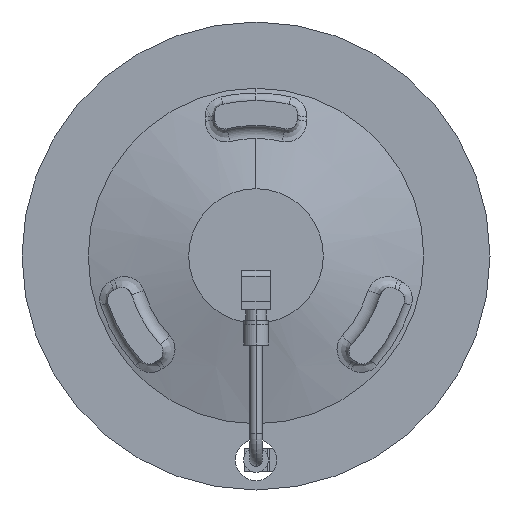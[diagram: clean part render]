
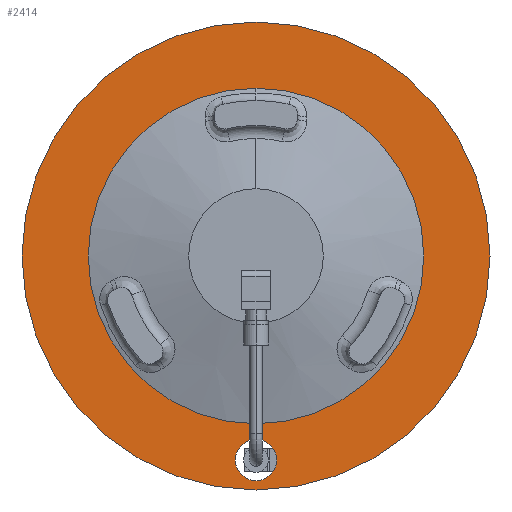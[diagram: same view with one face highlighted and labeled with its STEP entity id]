
A CAD part, front view. The second image highlights one B-rep face of the part: STEP entity #2414.
In plain terms, the highlighted planar face has unit normal (0, -1, 0).
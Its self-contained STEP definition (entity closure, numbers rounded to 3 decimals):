
#477 = ORIENTED_EDGE ( 'NONE', *, *, #3810, .F. ) ;
#1189 = AXIS2_PLACEMENT_3D ( 'NONE', #7078, #6818, #12101 ) ;
#1808 = EDGE_CURVE ( 'NONE', #16354, #14023, #17123, .T. ) ;
#2016 = DIRECTION ( 'NONE',  ( 0., 0., -1. ) ) ;
#2414 = ADVANCED_FACE ( 'NONE', ( #3329, #15010, #8617 ), #10317, .T. ) ;
#2456 = AXIS2_PLACEMENT_3D ( 'NONE', #16325, #5730, #2016 ) ;
#2617 = AXIS2_PLACEMENT_3D ( 'NONE', #14321, #10427, #3753 ) ;
#3282 = DIRECTION ( 'NONE',  ( 0., 1., 0. ) ) ;
#3329 = FACE_BOUND ( 'NONE', #13343, .T. ) ;
#3448 = CIRCLE ( 'NONE', #2617, 10. ) ;
#3753 = DIRECTION ( 'NONE',  ( 0., 0., -1. ) ) ;
#3803 = DIRECTION ( 'NONE',  ( 0., 0., 1. ) ) ;
#3810 = EDGE_CURVE ( 'NONE', #13067, #11407, #6550, .T. ) ;
#4326 = CARTESIAN_POINT ( 'NONE',  ( 0., -151.8, -113. ) ) ;
#4875 = CARTESIAN_POINT ( 'NONE',  ( 0., -151.8, -81.017 ) ) ;
#5112 = CARTESIAN_POINT ( 'NONE',  ( 0., -151.8, 0. ) ) ;
#5527 = DIRECTION ( 'NONE',  ( 0., 0., -1. ) ) ;
#5730 = DIRECTION ( 'NONE',  ( 0., -1., 0. ) ) ;
#6121 = CARTESIAN_POINT ( 'NONE',  ( 0., -151.8, 0. ) ) ;
#6348 = CARTESIAN_POINT ( 'NONE',  ( 0., -151.8, -88.5 ) ) ;
#6550 = CIRCLE ( 'NONE', #17120, 113. ) ;
#6564 = VERTEX_POINT ( 'NONE', #6348 ) ;
#6818 = DIRECTION ( 'NONE',  ( 0., 1., 0. ) ) ;
#6911 = CARTESIAN_POINT ( 'NONE',  ( 0., -151.8, 81.017 ) ) ;
#6975 = EDGE_CURVE ( 'NONE', #13938, #6564, #7525, .T. ) ;
#7078 = CARTESIAN_POINT ( 'NONE',  ( 0., -151.8, 0. ) ) ;
#7184 = ORIENTED_EDGE ( 'NONE', *, *, #16980, .F. ) ;
#7525 = CIRCLE ( 'NONE', #14708, 10. ) ;
#7546 = DIRECTION ( 'NONE',  ( 0., 0., 1. ) ) ;
#7981 = AXIS2_PLACEMENT_3D ( 'NONE', #9020, #14295, #3803 ) ;
#8327 = EDGE_CURVE ( 'NONE', #11407, #13067, #11932, .T. ) ;
#8520 = ORIENTED_EDGE ( 'NONE', *, *, #12133, .T. ) ;
#8572 = DIRECTION ( 'NONE',  ( 0., 0., 1. ) ) ;
#8617 = FACE_OUTER_BOUND ( 'NONE', #15459, .T. ) ;
#9020 = CARTESIAN_POINT ( 'NONE',  ( 0., -151.8, 0. ) ) ;
#9190 = DIRECTION ( 'NONE',  ( 0., 1., 0. ) ) ;
#9492 = CARTESIAN_POINT ( 'NONE',  ( 0., -151.8, -108.5 ) ) ;
#10317 = PLANE ( 'NONE',  #2456 ) ;
#10427 = DIRECTION ( 'NONE',  ( 0., -1., 0. ) ) ;
#10648 = ORIENTED_EDGE ( 'NONE', *, *, #8327, .F. ) ;
#10786 = CARTESIAN_POINT ( 'NONE',  ( 0., -151.8, 113. ) ) ;
#11407 = VERTEX_POINT ( 'NONE', #10786 ) ;
#11932 = CIRCLE ( 'NONE', #15818, 113. ) ;
#12101 = DIRECTION ( 'NONE',  ( 0., 0., 1. ) ) ;
#12122 = DIRECTION ( 'NONE',  ( 0., -1., 0. ) ) ;
#12133 = EDGE_CURVE ( 'NONE', #14023, #16354, #13637, .T. ) ;
#12382 = CARTESIAN_POINT ( 'NONE',  ( 0., -151.8, -98.5 ) ) ;
#13019 = EDGE_LOOP ( 'NONE', ( #13855, #8520 ) ) ;
#13067 = VERTEX_POINT ( 'NONE', #4326 ) ;
#13343 = EDGE_LOOP ( 'NONE', ( #7184, #16724 ) ) ;
#13637 = CIRCLE ( 'NONE', #1189, 81.017 ) ;
#13855 = ORIENTED_EDGE ( 'NONE', *, *, #1808, .T. ) ;
#13938 = VERTEX_POINT ( 'NONE', #9492 ) ;
#14023 = VERTEX_POINT ( 'NONE', #4875 ) ;
#14295 = DIRECTION ( 'NONE',  ( 0., 1., 0. ) ) ;
#14321 = CARTESIAN_POINT ( 'NONE',  ( 0., -151.8, -98.5 ) ) ;
#14708 = AXIS2_PLACEMENT_3D ( 'NONE', #12382, #12122, #5527 ) ;
#15010 = FACE_BOUND ( 'NONE', #13019, .T. ) ;
#15459 = EDGE_LOOP ( 'NONE', ( #10648, #477 ) ) ;
#15818 = AXIS2_PLACEMENT_3D ( 'NONE', #6121, #3282, #8572 ) ;
#16325 = CARTESIAN_POINT ( 'NONE',  ( -113., -151.8, 0. ) ) ;
#16354 = VERTEX_POINT ( 'NONE', #6911 ) ;
#16724 = ORIENTED_EDGE ( 'NONE', *, *, #6975, .F. ) ;
#16980 = EDGE_CURVE ( 'NONE', #6564, #13938, #3448, .T. ) ;
#17120 = AXIS2_PLACEMENT_3D ( 'NONE', #5112, #9190, #7546 ) ;
#17123 = CIRCLE ( 'NONE', #7981, 81.017 ) ;
